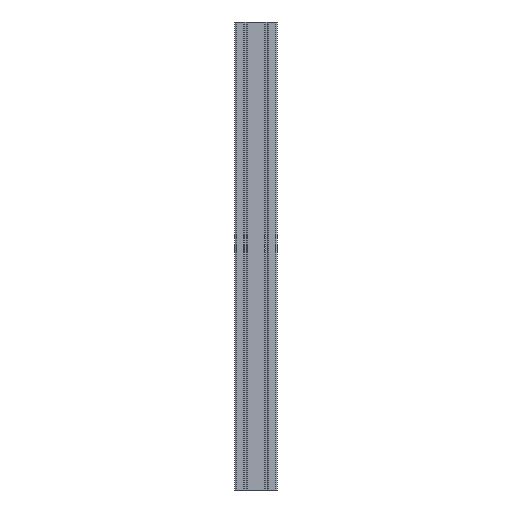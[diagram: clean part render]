
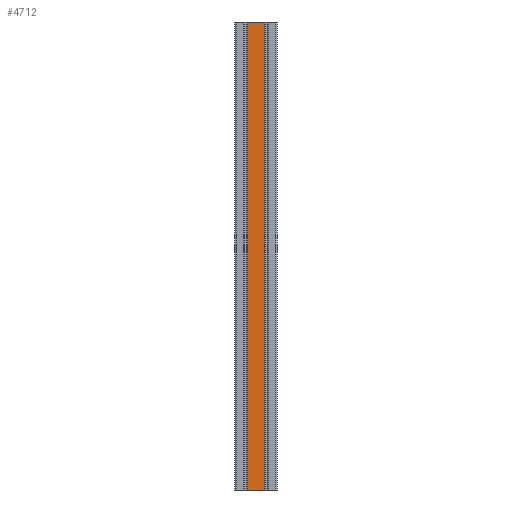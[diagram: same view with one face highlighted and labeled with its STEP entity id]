
A CAD part, left-side view. The second image highlights one B-rep face of the part: STEP entity #4712.
In plain terms, the highlighted planar face has unit normal (-1, 0, 0).
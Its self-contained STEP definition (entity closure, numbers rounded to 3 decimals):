
#724 = VERTEX_POINT ( 'NONE', #4096 ) ;
#1184 = LINE ( 'NONE', #1942, #2574 ) ;
#1321 = EDGE_CURVE ( 'NONE', #5078, #7788, #5221, .T. ) ;
#1533 = ORIENTED_EDGE ( 'NONE', *, *, #4506, .F. ) ;
#1942 = CARTESIAN_POINT ( 'NONE',  ( -22.5, 45., -500. ) ) ;
#2161 = AXIS2_PLACEMENT_3D ( 'NONE', #6741, #2975, #8077 ) ;
#2540 = VECTOR ( 'NONE', #3925, 1000. ) ;
#2574 = VECTOR ( 'NONE', #7666, 1000. ) ;
#2599 = CARTESIAN_POINT ( 'NONE',  ( -22.5, 45., 500. ) ) ;
#2867 = EDGE_CURVE ( 'NONE', #5078, #4843, #1184, .T. ) ;
#2975 = DIRECTION ( 'NONE',  ( -1., 0., 0. ) ) ;
#3814 = ORIENTED_EDGE ( 'NONE', *, *, #9094, .T. ) ;
#3841 = CARTESIAN_POINT ( 'NONE',  ( -22.5, 18.3, -500. ) ) ;
#3925 = DIRECTION ( 'NONE',  ( 0., 0., 1. ) ) ;
#4096 = CARTESIAN_POINT ( 'NONE',  ( -22.5, -18.3, 500. ) ) ;
#4506 = EDGE_CURVE ( 'NONE', #7788, #724, #6312, .T. ) ;
#4583 = ORIENTED_EDGE ( 'NONE', *, *, #1321, .F. ) ;
#4712 = ADVANCED_FACE ( 'NONE', ( #6834 ), #7545, .T. ) ;
#4843 = VERTEX_POINT ( 'NONE', #9060 ) ;
#4877 = VECTOR ( 'NONE', #9212, 1000. ) ;
#5078 = VERTEX_POINT ( 'NONE', #8962 ) ;
#5221 = LINE ( 'NONE', #3841, #9077 ) ;
#5491 = LINE ( 'NONE', #8396, #2540 ) ;
#5495 = ORIENTED_EDGE ( 'NONE', *, *, #2867, .T. ) ;
#6312 = LINE ( 'NONE', #2599, #4877 ) ;
#6741 = CARTESIAN_POINT ( 'NONE',  ( -22.5, 45., -500. ) ) ;
#6834 = FACE_OUTER_BOUND ( 'NONE', #8156, .T. ) ;
#7465 = DIRECTION ( 'NONE',  ( 0., 0., 1. ) ) ;
#7545 = PLANE ( 'NONE',  #2161 ) ;
#7666 = DIRECTION ( 'NONE',  ( 0., -1., 0. ) ) ;
#7788 = VERTEX_POINT ( 'NONE', #8125 ) ;
#8077 = DIRECTION ( 'NONE',  ( 0., -1., 0. ) ) ;
#8125 = CARTESIAN_POINT ( 'NONE',  ( -22.5, 18.3, 500. ) ) ;
#8156 = EDGE_LOOP ( 'NONE', ( #3814, #1533, #4583, #5495 ) ) ;
#8396 = CARTESIAN_POINT ( 'NONE',  ( -22.5, -18.3, -500. ) ) ;
#8962 = CARTESIAN_POINT ( 'NONE',  ( -22.5, 18.3, -500. ) ) ;
#9060 = CARTESIAN_POINT ( 'NONE',  ( -22.5, -18.3, -500. ) ) ;
#9077 = VECTOR ( 'NONE', #7465, 1000. ) ;
#9094 = EDGE_CURVE ( 'NONE', #4843, #724, #5491, .T. ) ;
#9212 = DIRECTION ( 'NONE',  ( 0., -1., 0. ) ) ;
